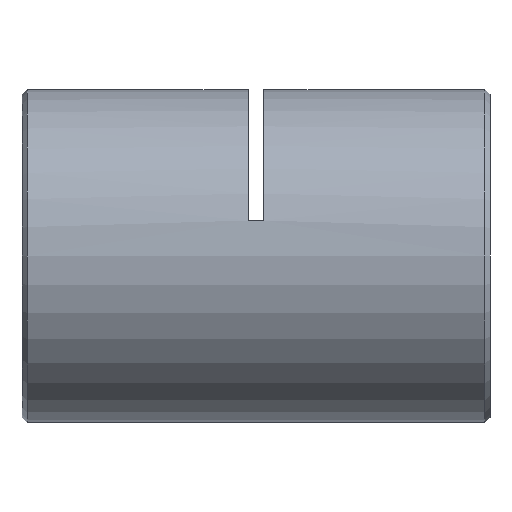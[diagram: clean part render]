
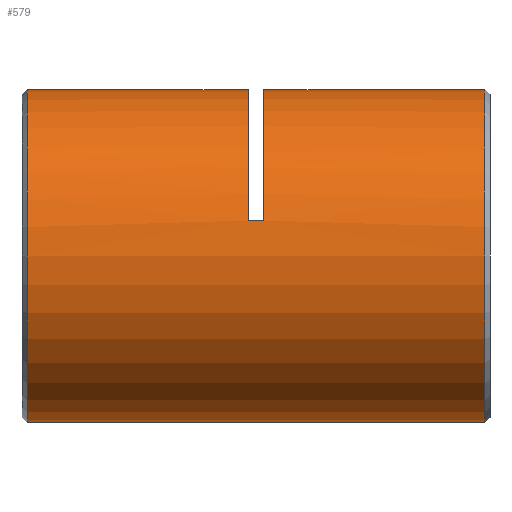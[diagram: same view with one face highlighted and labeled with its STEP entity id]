
A CAD part, left-side view. The second image highlights one B-rep face of the part: STEP entity #579.
In plain terms, the highlighted cylindrical face has radius 16 mm (diameter 32 mm), a partial arc.
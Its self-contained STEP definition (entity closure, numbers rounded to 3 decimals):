
#38 = CARTESIAN_POINT ( 'NONE',  ( 0., 44.75, 0. ) ) ;
#72 = DIRECTION ( 'NONE',  ( 0., 1., 0. ) ) ;
#100 = CARTESIAN_POINT ( 'NONE',  ( 0., 0.75, 16. ) ) ;
#162 = EDGE_CURVE ( 'NONE', #4989, #1420, #1822, .T. ) ;
#198 = VERTEX_POINT ( 'NONE', #100 ) ;
#579 = ADVANCED_FACE ( 'NONE', ( #1269 ), #3251, .T. ) ;
#655 = LINE ( 'NONE', #5673, #5433 ) ;
#699 = LINE ( 'NONE', #2126, #5333 ) ;
#838 = CIRCLE ( 'NONE', #4871, 16. ) ;
#961 = CARTESIAN_POINT ( 'NONE',  ( -15.632, 22., 3.413 ) ) ;
#1037 = DIRECTION ( 'NONE',  ( 0., 1., 0. ) ) ;
#1120 = VERTEX_POINT ( 'NONE', #4522 ) ;
#1149 = DIRECTION ( 'NONE',  ( 0., 0., -1. ) ) ;
#1207 = EDGE_CURVE ( 'NONE', #1268, #4989, #5950, .T. ) ;
#1229 = CARTESIAN_POINT ( 'NONE',  ( 0., 23.5, 0. ) ) ;
#1268 = VERTEX_POINT ( 'NONE', #5624 ) ;
#1269 = FACE_OUTER_BOUND ( 'NONE', #5218, .T. ) ;
#1298 = ORIENTED_EDGE ( 'NONE', *, *, #4880, .T. ) ;
#1389 = CARTESIAN_POINT ( 'NONE',  ( 0., 44.75, -16. ) ) ;
#1409 = CARTESIAN_POINT ( 'NONE',  ( -15.632, 22.75, 3.413 ) ) ;
#1420 = VERTEX_POINT ( 'NONE', #1389 ) ;
#1461 = AXIS2_PLACEMENT_3D ( 'NONE', #1894, #5807, #4282 ) ;
#1514 = AXIS2_PLACEMENT_3D ( 'NONE', #6177, #3722, #5692 ) ;
#1691 = VERTEX_POINT ( 'NONE', #961 ) ;
#1822 = CIRCLE ( 'NONE', #2344, 16. ) ;
#1865 = DIRECTION ( 'NONE',  ( 0., 1., 0. ) ) ;
#1894 = CARTESIAN_POINT ( 'NONE',  ( 0., 0., 0. ) ) ;
#2126 = CARTESIAN_POINT ( 'NONE',  ( 0., 0., 16. ) ) ;
#2262 = EDGE_CURVE ( 'NONE', #4147, #1420, #655, .T. ) ;
#2321 = ORIENTED_EDGE ( 'NONE', *, *, #5412, .F. ) ;
#2344 = AXIS2_PLACEMENT_3D ( 'NONE', #38, #5584, #1149 ) ;
#2665 = DIRECTION ( 'NONE',  ( 0., 0., 1. ) ) ;
#2708 = VERTEX_POINT ( 'NONE', #3112 ) ;
#2756 = CARTESIAN_POINT ( 'NONE',  ( 0., 44.75, 16. ) ) ;
#2757 = VECTOR ( 'NONE', #5420, 1000. ) ;
#3058 = CIRCLE ( 'NONE', #1514, 16. ) ;
#3080 = DIRECTION ( 'NONE',  ( 0., 1., 0. ) ) ;
#3097 = CIRCLE ( 'NONE', #3928, 16. ) ;
#3112 = CARTESIAN_POINT ( 'NONE',  ( -15.632, 23.5, 3.413 ) ) ;
#3251 = CYLINDRICAL_SURFACE ( 'NONE', #1461, 16. ) ;
#3505 = CARTESIAN_POINT ( 'NONE',  ( 0., 0., 16. ) ) ;
#3533 = EDGE_CURVE ( 'NONE', #4147, #198, #3097, .T. ) ;
#3722 = DIRECTION ( 'NONE',  ( 0., 1., 0. ) ) ;
#3837 = DIRECTION ( 'NONE',  ( 0., 0., 1. ) ) ;
#3900 = ORIENTED_EDGE ( 'NONE', *, *, #6029, .T. ) ;
#3928 = AXIS2_PLACEMENT_3D ( 'NONE', #6293, #1865, #3837 ) ;
#4000 = ORIENTED_EDGE ( 'NONE', *, *, #162, .T. ) ;
#4141 = ORIENTED_EDGE ( 'NONE', *, *, #2262, .F. ) ;
#4147 = VERTEX_POINT ( 'NONE', #6206 ) ;
#4200 = VECTOR ( 'NONE', #1037, 1000. ) ;
#4282 = DIRECTION ( 'NONE',  ( 0., 0., 1. ) ) ;
#4459 = EDGE_CURVE ( 'NONE', #198, #1120, #699, .T. ) ;
#4522 = CARTESIAN_POINT ( 'NONE',  ( 0., 22., 16. ) ) ;
#4871 = AXIS2_PLACEMENT_3D ( 'NONE', #1229, #3080, #2665 ) ;
#4880 = EDGE_CURVE ( 'NONE', #2708, #1268, #838, .T. ) ;
#4989 = VERTEX_POINT ( 'NONE', #2756 ) ;
#5096 = DIRECTION ( 'NONE',  ( 0., 1., 0. ) ) ;
#5218 = EDGE_LOOP ( 'NONE', ( #4141, #5917, #5735, #2321, #3900, #1298, #6184, #4000 ) ) ;
#5333 = VECTOR ( 'NONE', #72, 1000. ) ;
#5412 = EDGE_CURVE ( 'NONE', #1691, #1120, #3058, .T. ) ;
#5420 = DIRECTION ( 'NONE',  ( 0., 1., 0. ) ) ;
#5433 = VECTOR ( 'NONE', #5096, 1000. ) ;
#5584 = DIRECTION ( 'NONE',  ( 0., -1., 0. ) ) ;
#5624 = CARTESIAN_POINT ( 'NONE',  ( 0., 23.5, 16. ) ) ;
#5673 = CARTESIAN_POINT ( 'NONE',  ( 0., 0., -16. ) ) ;
#5692 = DIRECTION ( 'NONE',  ( 0., 0., 1. ) ) ;
#5735 = ORIENTED_EDGE ( 'NONE', *, *, #4459, .T. ) ;
#5807 = DIRECTION ( 'NONE',  ( 0., 1., 0. ) ) ;
#5843 = LINE ( 'NONE', #1409, #2757 ) ;
#5917 = ORIENTED_EDGE ( 'NONE', *, *, #3533, .T. ) ;
#5950 = LINE ( 'NONE', #3505, #4200 ) ;
#6029 = EDGE_CURVE ( 'NONE', #1691, #2708, #5843, .T. ) ;
#6177 = CARTESIAN_POINT ( 'NONE',  ( 0., 22., 0. ) ) ;
#6184 = ORIENTED_EDGE ( 'NONE', *, *, #1207, .T. ) ;
#6206 = CARTESIAN_POINT ( 'NONE',  ( 0., 0.75, -16. ) ) ;
#6293 = CARTESIAN_POINT ( 'NONE',  ( 0., 0.75, 0. ) ) ;
